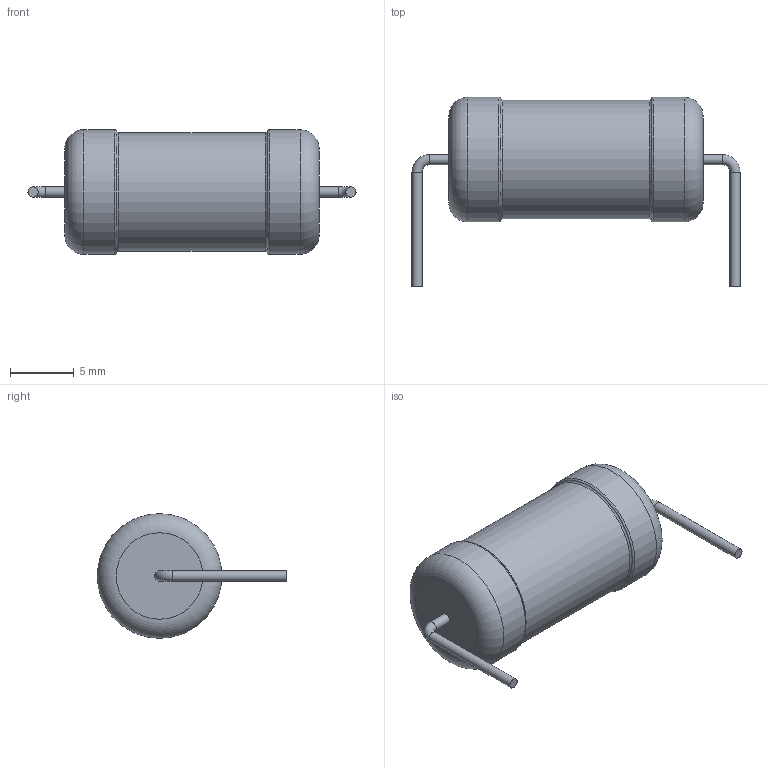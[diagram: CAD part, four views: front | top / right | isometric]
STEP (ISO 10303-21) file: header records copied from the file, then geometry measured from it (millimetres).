
FILE_DESCRIPTION(('STEP AP203'), '1');
FILE_NAME('Ñ2-29Â-1(2)', '', ('UNSPECIFIED'), ('UNSPECIFIED'), 'ASCON STEP Converter 1.6', 'ASCON Math Kernel', '');
FILE_SCHEMA(('CONFIG_CONTROL_DESIGN'));
Length unit declared in the file: millimetre
Bounding box: 25.8 x 14.9 x 9.8 mm (x, y, z)
Volume: 1408.6 mm3; surface area: 774.9 mm2
Topology: 1 solids, 1 shells, 19 faces, 33 edges, 18 vertices
Faces by surface type: torus 8, cylinder 7, plane 4
Full cylindrical faces by diameter (mm): 0.8 x4, 9.326 x1, 9.8 x2
Entity records: 570 total; most frequent: DIRECTION 76, CARTESIAN_POINT 56, AXIS2_PLACEMENT_3D 38, EDGE_LOOP 36, ORIENTED_EDGE 36, FACE_OUTER_BOUND 30, COLOUR_RGB 20, FILL_AREA_STYLE_COLOUR 20
